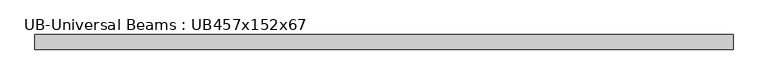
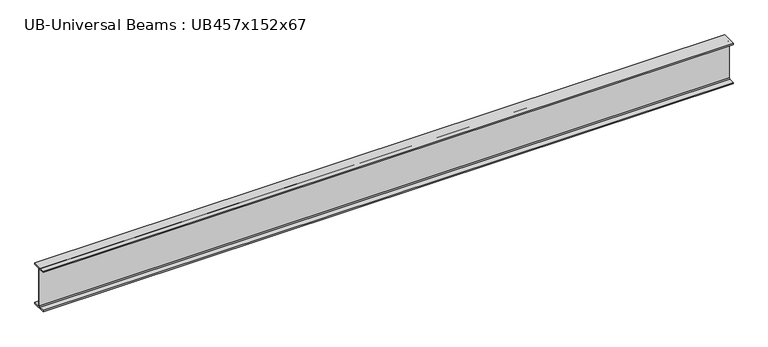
"""IFC4 building model written with IfcOpenShell, lengths in millimetres: beam geometry, UB-Universal Beams : UB457x152x67."""

from ifc_helpers import new_model, si_unit, point, frame, frame_2d, origin, place, context, project, spatial, polyline, circle_curve, trimmed, segment, composite_curve, outline, extrude, source, transform, mapped, element, save


def ub_universal_beams_ub457x152x67_25e113f4(model_context):
    return source(origin(), model_context, "Body", "SweptSolid", [
        extrude(outline(composite_curve([segment(polyline([(76.9, -214.0), (76.9, -229.0), (-76.9, -229.0), (-76.9, -214.0), (-14.7, -214.0)]), True, "CONTINUOUS"), segment(trimmed(circle_curve(frame_2d((-14.7, -203.8)), 10.2), [point((-14.7, -214.0))], [point((-4.5, -203.8))], True, "CARTESIAN"), True, "CONTINUOUS"), segment(polyline([(-4.5, -203.8), (-4.5, 203.8)]), True, "CONTINUOUS"), segment(trimmed(circle_curve(frame_2d((-14.7, 203.8)), 10.2), [point((-4.5, 203.8))], [point((-14.7, 214.0))], True, "CARTESIAN"), True, "CONTINUOUS"), segment(polyline([(-14.7, 214.0), (-76.9, 214.0), (-76.9, 229.0), (76.9, 229.0), (76.9, 214.0), (14.7, 214.0)]), True, "CONTINUOUS"), segment(trimmed(circle_curve(frame_2d((14.7, 203.8)), 10.2), [point((14.7, 214.0))], [point((4.5, 203.8))], True, "CARTESIAN"), True, "CONTINUOUS"), segment(polyline([(4.5, 203.8), (4.5, -203.8)]), True, "CONTINUOUS"), segment(trimmed(circle_curve(frame_2d((14.7, -203.8)), 10.2), [point((4.5, -203.8))], [point((14.7, -214.0))], True, "CARTESIAN"), True, "CONTINUOUS"), segment(polyline([(14.7, -214.0), (76.9, -214.0)]), True, "CONTINUOUS")], self_intersect=False)), frame((-3674.8, 0.0, 0.0), z_axis=(1.0, 0.0, 0.0), x_axis=(0.0, 1.0, 0.0)), (0.0, 0.0, 1.0), 7345.2),
    ])


if __name__ == "__main__":
    model = new_model("IFC4")
    model_context = context("Model", 3, world=origin())
    ifc_project = project(units=[si_unit("LENGTHUNIT", "METRE", prefix="MILLI")], contexts=[model_context])
    site = spatial("IfcSite", under=ifc_project)
    building = spatial("IfcBuilding", under=site)
    placement = place(None, origin())
    ub_universal_beams_ub457x152x67_shape = ub_universal_beams_ub457x152x67_25e113f4(model_context)
    element("IfcBeam", 1, ObjectType="UB-Universal Beams : UB457x152x67", at=placement, inside=building, context=model_context, shape_type="MappedRepresentation", body=[
        mapped(ub_universal_beams_ub457x152x67_shape, transform((0.0, 0.0, 0.0), x_axis=(1.0, 0.0, 0.0), y_axis=(0.0, 1.0, 0.0), z_axis=(0.0, 0.0, 1.0))),
    ])
    save(model, "model.ifc")
